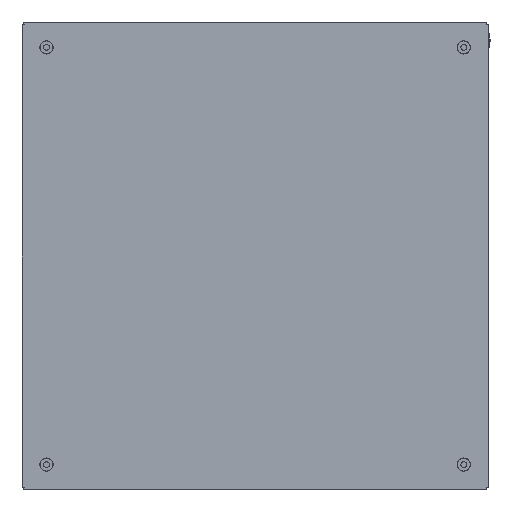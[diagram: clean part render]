
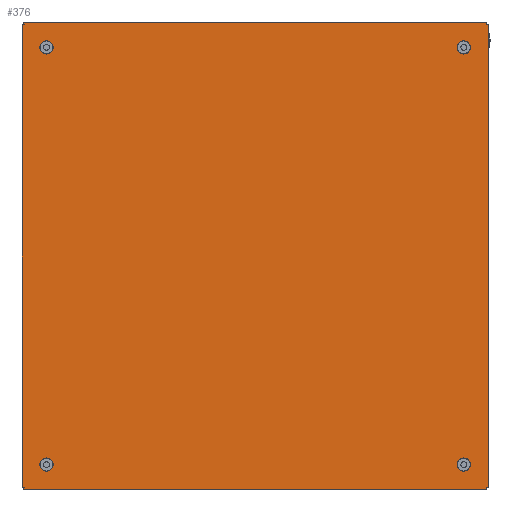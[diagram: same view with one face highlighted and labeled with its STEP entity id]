
A CAD part, front view. The second image highlights one B-rep face of the part: STEP entity #376.
In plain terms, the highlighted planar face has unit normal (0, -1, 0).
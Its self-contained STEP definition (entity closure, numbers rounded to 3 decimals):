
#376 = ADVANCED_FACE('',(#377,#397,#408,#428,#439),#561,.T.);
#377 = FACE_BOUND('',#378,.T.);
#378 = EDGE_LOOP('',(#379,#390));
#379 = ORIENTED_EDGE('',*,*,#380,.F.);
#380 = EDGE_CURVE('',#381,#383,#385,.T.);
#381 = VERTEX_POINT('',#382);
#382 = CARTESIAN_POINT('',(-179.,-1.2,-175.1));
#383 = VERTEX_POINT('',#384);
#384 = CARTESIAN_POINT('',(-179.,-1.2,-182.9));
#385 = CIRCLE('',#386,3.9);
#386 = AXIS2_PLACEMENT_3D('',#387,#388,#389);
#387 = CARTESIAN_POINT('',(-179.,-1.2,-179.));
#388 = DIRECTION('',(0.,-1.,0.));
#389 = DIRECTION('',(0.,0.,1.));
#390 = ORIENTED_EDGE('',*,*,#391,.F.);
#391 = EDGE_CURVE('',#383,#381,#392,.T.);
#392 = CIRCLE('',#393,3.9);
#393 = AXIS2_PLACEMENT_3D('',#394,#395,#396);
#394 = CARTESIAN_POINT('',(-179.,-1.2,-179.));
#395 = DIRECTION('',(0.,-1.,0.));
#396 = DIRECTION('',(0.,0.,1.));
#397 = FACE_BOUND('',#398,.T.);
#398 = EDGE_LOOP('',(#399));
#399 = ORIENTED_EDGE('',*,*,#400,.F.);
#400 = EDGE_CURVE('',#401,#401,#403,.T.);
#401 = VERTEX_POINT('',#402);
#402 = CARTESIAN_POINT('',(179.,-1.2,-182.9));
#403 = CIRCLE('',#404,3.9);
#404 = AXIS2_PLACEMENT_3D('',#405,#406,#407);
#405 = CARTESIAN_POINT('',(179.,-1.2,-179.));
#406 = DIRECTION('',(0.,-1.,0.));
#407 = DIRECTION('',(0.,0.,-1.));
#408 = FACE_BOUND('',#409,.T.);
#409 = EDGE_LOOP('',(#410,#421));
#410 = ORIENTED_EDGE('',*,*,#411,.F.);
#411 = EDGE_CURVE('',#412,#414,#416,.T.);
#412 = VERTEX_POINT('',#413);
#413 = CARTESIAN_POINT('',(179.,-1.2,182.9));
#414 = VERTEX_POINT('',#415);
#415 = CARTESIAN_POINT('',(179.,-1.2,175.1));
#416 = CIRCLE('',#417,3.9);
#417 = AXIS2_PLACEMENT_3D('',#418,#419,#420);
#418 = CARTESIAN_POINT('',(179.,-1.2,179.));
#419 = DIRECTION('',(0.,-1.,0.));
#420 = DIRECTION('',(0.,0.,1.));
#421 = ORIENTED_EDGE('',*,*,#422,.F.);
#422 = EDGE_CURVE('',#414,#412,#423,.T.);
#423 = CIRCLE('',#424,3.9);
#424 = AXIS2_PLACEMENT_3D('',#425,#426,#427);
#425 = CARTESIAN_POINT('',(179.,-1.2,179.));
#426 = DIRECTION('',(0.,-1.,0.));
#427 = DIRECTION('',(0.,0.,1.));
#428 = FACE_BOUND('',#429,.T.);
#429 = EDGE_LOOP('',(#430));
#430 = ORIENTED_EDGE('',*,*,#431,.F.);
#431 = EDGE_CURVE('',#432,#432,#434,.T.);
#432 = VERTEX_POINT('',#433);
#433 = CARTESIAN_POINT('',(-179.,-1.2,175.1));
#434 = CIRCLE('',#435,3.9);
#435 = AXIS2_PLACEMENT_3D('',#436,#437,#438);
#436 = CARTESIAN_POINT('',(-179.,-1.2,179.));
#437 = DIRECTION('',(0.,-1.,0.));
#438 = DIRECTION('',(0.,0.,-1.));
#439 = FACE_BOUND('',#440,.T.);
#440 = EDGE_LOOP('',(#441,#454,#465,#473,#484,#495,#503,#514,#525,#533,
    #544,#555));
#441 = ORIENTED_EDGE('',*,*,#442,.F.);
#442 = EDGE_CURVE('',#443,#445,#447,.T.);
#443 = VERTEX_POINT('',#444);
#444 = CARTESIAN_POINT('',(198.2,-1.2,198.2));
#445 = VERTEX_POINT('',#446);
#446 = CARTESIAN_POINT('',(200.,-1.2,198.574));
#447 = B_SPLINE_CURVE_WITH_KNOTS('',3,(#448,#449,#450,#451,#452,#453),
  .UNSPECIFIED.,.F.,.F.,(4,2,4),(0.004,0.005,
    0.006),.UNSPECIFIED.);
#448 = CARTESIAN_POINT('',(198.2,-1.2,198.2));
#449 = CARTESIAN_POINT('',(198.495,-1.2,198.287));
#450 = CARTESIAN_POINT('',(198.79,-1.2,198.371));
#451 = CARTESIAN_POINT('',(199.39,-1.2,198.498));
#452 = CARTESIAN_POINT('',(199.695,-1.2,198.543));
#453 = CARTESIAN_POINT('',(200.,-1.2,198.574));
#454 = ORIENTED_EDGE('',*,*,#455,.T.);
#455 = EDGE_CURVE('',#443,#456,#458,.T.);
#456 = VERTEX_POINT('',#457);
#457 = CARTESIAN_POINT('',(198.574,-1.2,200.));
#458 = B_SPLINE_CURVE_WITH_KNOTS('',3,(#459,#460,#461,#462,#463,#464),
  .UNSPECIFIED.,.F.,.F.,(4,2,4),(0.004,0.005,
    0.006),.UNSPECIFIED.);
#459 = CARTESIAN_POINT('',(198.2,-1.2,198.2));
#460 = CARTESIAN_POINT('',(198.287,-1.2,198.495));
#461 = CARTESIAN_POINT('',(198.371,-1.2,198.79));
#462 = CARTESIAN_POINT('',(198.498,-1.2,199.39));
#463 = CARTESIAN_POINT('',(198.543,-1.2,199.695));
#464 = CARTESIAN_POINT('',(198.574,-1.2,200.));
#465 = ORIENTED_EDGE('',*,*,#466,.T.);
#466 = EDGE_CURVE('',#456,#467,#469,.T.);
#467 = VERTEX_POINT('',#468);
#468 = CARTESIAN_POINT('',(-198.574,-1.2,200.));
#469 = LINE('',#470,#471);
#470 = CARTESIAN_POINT('',(2200.,-1.2,200.));
#471 = VECTOR('',#472,1.);
#472 = DIRECTION('',(-1.,0.,0.));
#473 = ORIENTED_EDGE('',*,*,#474,.F.);
#474 = EDGE_CURVE('',#475,#467,#477,.T.);
#475 = VERTEX_POINT('',#476);
#476 = CARTESIAN_POINT('',(-198.2,-1.2,198.2));
#477 = B_SPLINE_CURVE_WITH_KNOTS('',3,(#478,#479,#480,#481,#482,#483),
  .UNSPECIFIED.,.F.,.F.,(4,2,4),(0.004,0.005,
    0.006),.UNSPECIFIED.);
#478 = CARTESIAN_POINT('',(-198.2,-1.2,198.2));
#479 = CARTESIAN_POINT('',(-198.287,-1.2,198.495));
#480 = CARTESIAN_POINT('',(-198.371,-1.2,198.79));
#481 = CARTESIAN_POINT('',(-198.498,-1.2,199.39));
#482 = CARTESIAN_POINT('',(-198.543,-1.2,199.695));
#483 = CARTESIAN_POINT('',(-198.574,-1.2,200.));
#484 = ORIENTED_EDGE('',*,*,#485,.T.);
#485 = EDGE_CURVE('',#475,#486,#488,.T.);
#486 = VERTEX_POINT('',#487);
#487 = CARTESIAN_POINT('',(-200.,-1.2,198.574));
#488 = B_SPLINE_CURVE_WITH_KNOTS('',3,(#489,#490,#491,#492,#493,#494),
  .UNSPECIFIED.,.F.,.F.,(4,2,4),(0.004,0.005,
    0.006),.UNSPECIFIED.);
#489 = CARTESIAN_POINT('',(-198.2,-1.2,198.2));
#490 = CARTESIAN_POINT('',(-198.495,-1.2,198.287));
#491 = CARTESIAN_POINT('',(-198.79,-1.2,198.371));
#492 = CARTESIAN_POINT('',(-199.39,-1.2,198.498));
#493 = CARTESIAN_POINT('',(-199.695,-1.2,198.543));
#494 = CARTESIAN_POINT('',(-200.,-1.2,198.574));
#495 = ORIENTED_EDGE('',*,*,#496,.T.);
#496 = EDGE_CURVE('',#486,#497,#499,.T.);
#497 = VERTEX_POINT('',#498);
#498 = CARTESIAN_POINT('',(-200.,-1.2,-198.574));
#499 = LINE('',#500,#501);
#500 = CARTESIAN_POINT('',(-200.,-1.2,2200.));
#501 = VECTOR('',#502,1.);
#502 = DIRECTION('',(0.,0.,-1.));
#503 = ORIENTED_EDGE('',*,*,#504,.F.);
#504 = EDGE_CURVE('',#505,#497,#507,.T.);
#505 = VERTEX_POINT('',#506);
#506 = CARTESIAN_POINT('',(-198.2,-1.2,-198.2));
#507 = B_SPLINE_CURVE_WITH_KNOTS('',3,(#508,#509,#510,#511,#512,#513),
  .UNSPECIFIED.,.F.,.F.,(4,2,4),(0.004,0.005,
    0.006),.UNSPECIFIED.);
#508 = CARTESIAN_POINT('',(-198.2,-1.2,-198.2));
#509 = CARTESIAN_POINT('',(-198.495,-1.2,-198.287));
#510 = CARTESIAN_POINT('',(-198.79,-1.2,-198.371));
#511 = CARTESIAN_POINT('',(-199.39,-1.2,-198.498));
#512 = CARTESIAN_POINT('',(-199.695,-1.2,-198.543));
#513 = CARTESIAN_POINT('',(-200.,-1.2,-198.574));
#514 = ORIENTED_EDGE('',*,*,#515,.T.);
#515 = EDGE_CURVE('',#505,#516,#518,.T.);
#516 = VERTEX_POINT('',#517);
#517 = CARTESIAN_POINT('',(-198.574,-1.2,-200.));
#518 = B_SPLINE_CURVE_WITH_KNOTS('',3,(#519,#520,#521,#522,#523,#524),
  .UNSPECIFIED.,.F.,.F.,(4,2,4),(0.004,0.005,
    0.006),.UNSPECIFIED.);
#519 = CARTESIAN_POINT('',(-198.2,-1.2,-198.2));
#520 = CARTESIAN_POINT('',(-198.287,-1.2,-198.495));
#521 = CARTESIAN_POINT('',(-198.371,-1.2,-198.79));
#522 = CARTESIAN_POINT('',(-198.498,-1.2,-199.39));
#523 = CARTESIAN_POINT('',(-198.543,-1.2,-199.695));
#524 = CARTESIAN_POINT('',(-198.574,-1.2,-200.));
#525 = ORIENTED_EDGE('',*,*,#526,.T.);
#526 = EDGE_CURVE('',#516,#527,#529,.T.);
#527 = VERTEX_POINT('',#528);
#528 = CARTESIAN_POINT('',(198.574,-1.2,-200.));
#529 = LINE('',#530,#531);
#530 = CARTESIAN_POINT('',(-2200.,-1.2,-200.));
#531 = VECTOR('',#532,1.);
#532 = DIRECTION('',(1.,0.,0.));
#533 = ORIENTED_EDGE('',*,*,#534,.F.);
#534 = EDGE_CURVE('',#535,#527,#537,.T.);
#535 = VERTEX_POINT('',#536);
#536 = CARTESIAN_POINT('',(198.2,-1.2,-198.2));
#537 = B_SPLINE_CURVE_WITH_KNOTS('',3,(#538,#539,#540,#541,#542,#543),
  .UNSPECIFIED.,.F.,.F.,(4,2,4),(0.004,0.005,
    0.006),.UNSPECIFIED.);
#538 = CARTESIAN_POINT('',(198.2,-1.2,-198.2));
#539 = CARTESIAN_POINT('',(198.287,-1.2,-198.495));
#540 = CARTESIAN_POINT('',(198.371,-1.2,-198.79));
#541 = CARTESIAN_POINT('',(198.498,-1.2,-199.39));
#542 = CARTESIAN_POINT('',(198.543,-1.2,-199.695));
#543 = CARTESIAN_POINT('',(198.574,-1.2,-200.));
#544 = ORIENTED_EDGE('',*,*,#545,.T.);
#545 = EDGE_CURVE('',#535,#546,#548,.T.);
#546 = VERTEX_POINT('',#547);
#547 = CARTESIAN_POINT('',(200.,-1.2,-198.574));
#548 = B_SPLINE_CURVE_WITH_KNOTS('',3,(#549,#550,#551,#552,#553,#554),
  .UNSPECIFIED.,.F.,.F.,(4,2,4),(0.004,0.005,
    0.006),.UNSPECIFIED.);
#549 = CARTESIAN_POINT('',(198.2,-1.2,-198.2));
#550 = CARTESIAN_POINT('',(198.495,-1.2,-198.287));
#551 = CARTESIAN_POINT('',(198.79,-1.2,-198.371));
#552 = CARTESIAN_POINT('',(199.39,-1.2,-198.498));
#553 = CARTESIAN_POINT('',(199.695,-1.2,-198.543));
#554 = CARTESIAN_POINT('',(200.,-1.2,-198.574));
#555 = ORIENTED_EDGE('',*,*,#556,.T.);
#556 = EDGE_CURVE('',#546,#445,#557,.T.);
#557 = LINE('',#558,#559);
#558 = CARTESIAN_POINT('',(200.,-1.2,-2200.));
#559 = VECTOR('',#560,1.);
#560 = DIRECTION('',(0.,0.,1.));
#561 = PLANE('',#562);
#562 = AXIS2_PLACEMENT_3D('',#563,#564,#565);
#563 = CARTESIAN_POINT('',(0.,-1.2,0.));
#564 = DIRECTION('',(0.,-1.,0.));
#565 = DIRECTION('',(0.,-0.,-1.));
